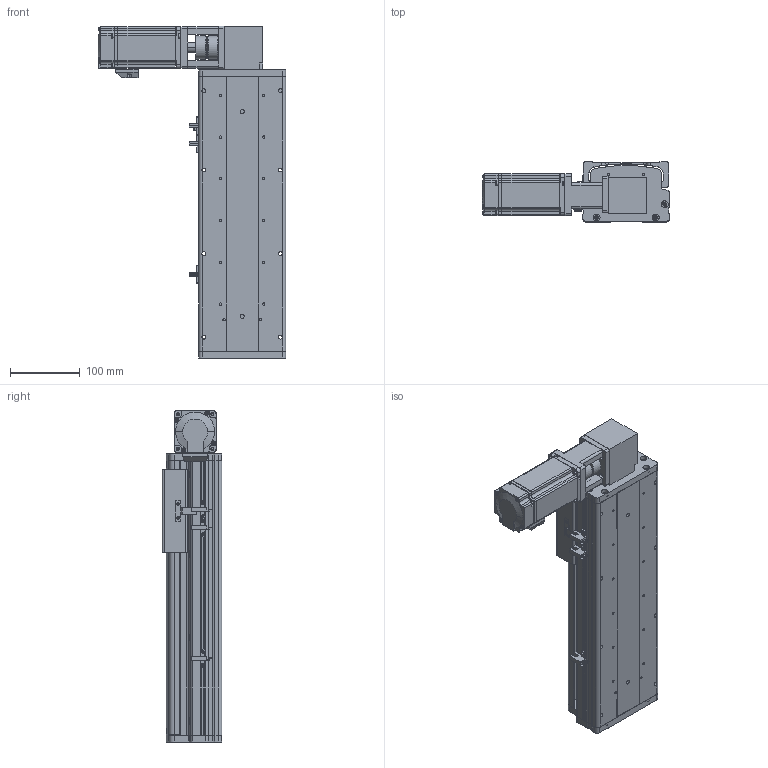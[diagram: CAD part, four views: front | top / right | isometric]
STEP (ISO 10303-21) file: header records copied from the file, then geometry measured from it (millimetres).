
FILE_DESCRIPTION (( 'STEP AP214' ), '1' );
FILE_NAME ('KSD125B-S200-MRT-CM.STEP', '2017-08-07T07:13:44', ( '微软用户' ), ( '微软中国' ), 'SwSTEP 2.0', 'SolidWorks 2014', '' );
FILE_SCHEMA (( 'AUTOMOTIVE_DESIGN' ));
Length unit declared in the file: millimetre
Products named in the file (16): 100宽安装板同步带带电机座400W,86; 100宽马达安装板同步带右; 前端板-125宽模组同步带; 125模组同步带-尾端板1; KSD125模组同步带-滑动座1; KSD125B-S200-MRT-CM; KSD125模组200行程同步带-防尘盖; 125模组200行程同步带-底板; MHMD042G1CA_2_03; KSD125模组同步带-防撞垫2; CS-34X32-10X14; 100遵鎮湛假蚾啣1 ; 覜茼え68遵圉猾敕; U倰嫖萇假蚾璃; U倰嫖萇EEㄜSX672; KSD125模组同步带-防撞垫1
Assembly tree (19 placements, depth 2):
  KSD125B-S200-MRT-CM
    KSD125模组同步带-滑动座1
    125模组同步带-尾端板1
    前端板-125宽模组同步带
    100宽马达安装板同步带右
    100宽安装板同步带带电机座400W,86
    KSD125模组同步带-防撞垫1
    U倰嫖萇EEㄜSX672  x3
    U倰嫖萇假蚾璃  x3
    覜茼え68遵圉猾敕
    100遵鎮湛假蚾啣1 
    CS-34X32-10X14
    KSD125模组同步带-防撞垫2
    MHMD042G1CA_2_03
    125模组200行程同步带-底板
    KSD125模组200行程同步带-防尘盖
Bounding box: 269 x 86 x 477 mm (x, y, z)
Volume: 1773826 mm3; surface area: 615128.3 mm2
Topology: 18 solids, 21 shells, 1602 faces, 4582 edges, 3020 vertices
Faces by surface type: cylinder 805, plane 694, cone 81, bspline 22
Entity records: 55734 total; most frequent: CARTESIAN_POINT 11348, DIRECTION 8137, ORIENTED_EDGE 7684, EDGE_CURVE 3920, AXIS2_PLACEMENT_3D 2997, VERTEX_POINT 2612, VECTOR 2143, LINE 2143
